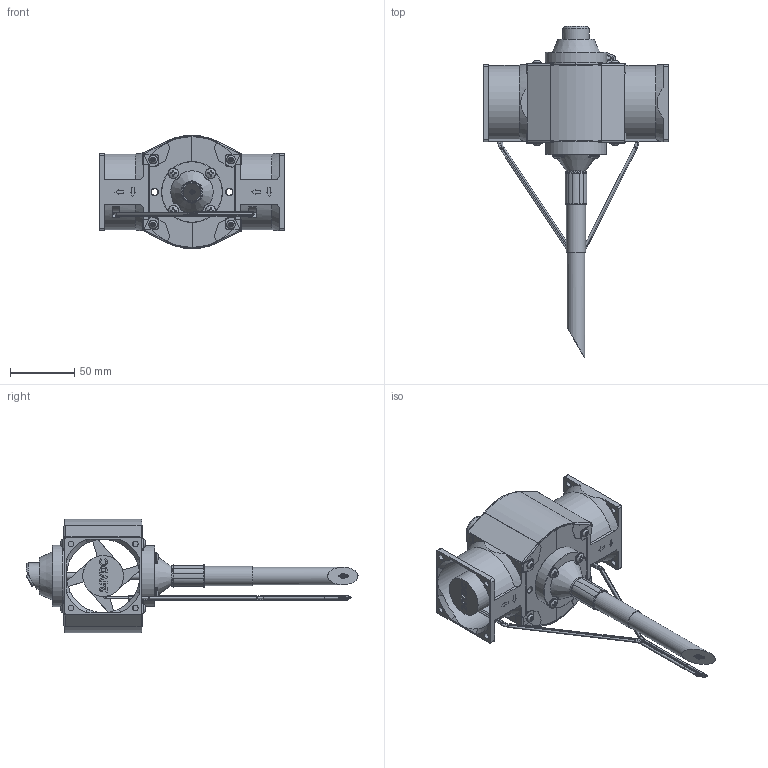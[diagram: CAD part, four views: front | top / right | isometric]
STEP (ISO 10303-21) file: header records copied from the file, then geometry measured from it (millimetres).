
FILE_DESCRIPTION (( 'STEP AP214' ), '1' );
FILE_NAME ('TUB00184.STEP', '2024-02-01T15:29:21', ( '' ), ( '' ), 'SwSTEP 2.0', 'SolidWorks 2023', '' );
FILE_SCHEMA (( 'AUTOMOTIVE_DESIGN' ));
Length unit declared in the file: inch
Products named in the file (1): TUB00184
Bounding box: 144.22 x 258.67 x 88.33 mm (x, y, z)
Surface area: 101025.8 mm2 (no closed solid volume)
Topology: 0 solids, 83 shells, 729 faces, 2595 edges, 1872 vertices
Faces by surface type: plane 362, cylinder 198, cone 65, torus 49, bspline 43, sphere 12
Full cylindrical faces by diameter (mm): 0.178 x9, 1.39 x4, 1.397 x1, 1.4 x3, 2.54 x1, 4.496 x16, 4.826 x1, 5.105 x2, 6.655 x8, 7.036 x1, 8.179 x4, 9.068 x1, 9.169 x1, 10.16 x1, 10.414 x1, 13.652 x1, 14.923 x1, 16.51 x2, 16.612 x1, 20.447 x1, 31.75 x2, 40.361 x1, 44.679 x1, 47.625 x1, 48.006 x1, 57 x2
Entity records: 39296 total; most frequent: CARTESIAN_POINT 9218, DIRECTION 4244, ORIENTED_EDGE 3618, EDGE_CURVE 2437, VERTEX_POINT 1818, AXIS2_PLACEMENT_3D 1533, VECTOR 1178, LINE 1178
